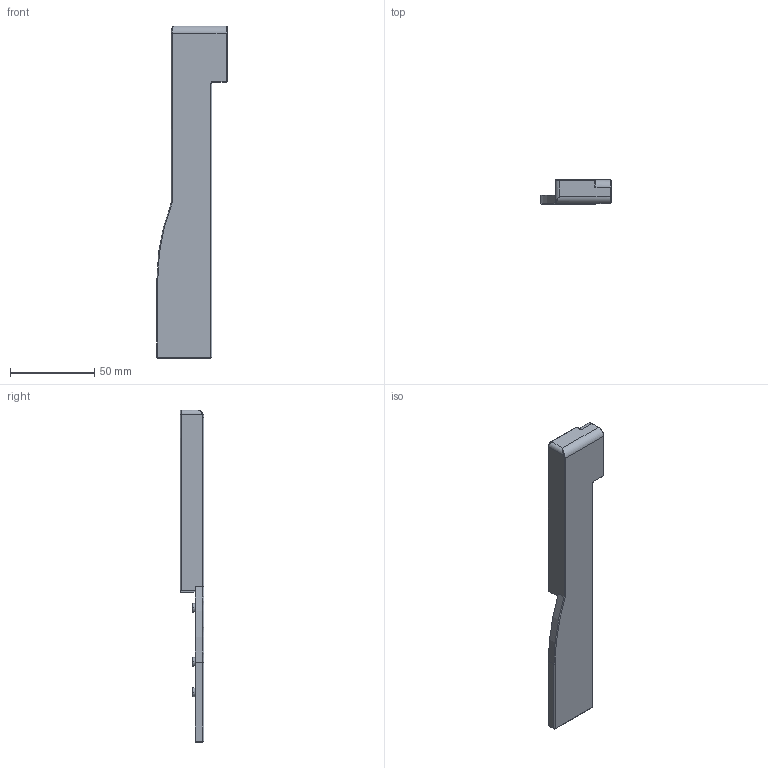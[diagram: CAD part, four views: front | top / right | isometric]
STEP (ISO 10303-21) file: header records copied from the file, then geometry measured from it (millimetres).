
FILE_DESCRIPTION (( 'STEP AP214' ), '1' );
FILE_NAME ('Frontblendenhalter_Deluxe_hoch_links.step', '2010-10-27T12:00:18', ( 'grass' ), ( '' ), 'SwSTEP 2.0', 'SolidWorks 2010', '' );
FILE_SCHEMA (( 'AUTOMOTIVE_DESIGN' ));
Length unit declared in the file: millimetre
Products named in the file (1): Frontblendenhalter_Deluxe_hoch_links
Bounding box: 41.5 x 14 x 196.75 mm (x, y, z)
Volume: 34711.1 mm3; surface area: 18766.1 mm2
Topology: 1 solids, 1 shells, 86 faces, 207 edges, 124 vertices
Faces by surface type: cylinder 40, plane 33, torus 7, sphere 5, bspline 1
Entity records: 2569 total; most frequent: CARTESIAN_POINT 515, DIRECTION 450, ORIENTED_EDGE 402, EDGE_CURVE 201, AXIS2_PLACEMENT_3D 169, VERTEX_POINT 124, VECTOR 112, LINE 112
